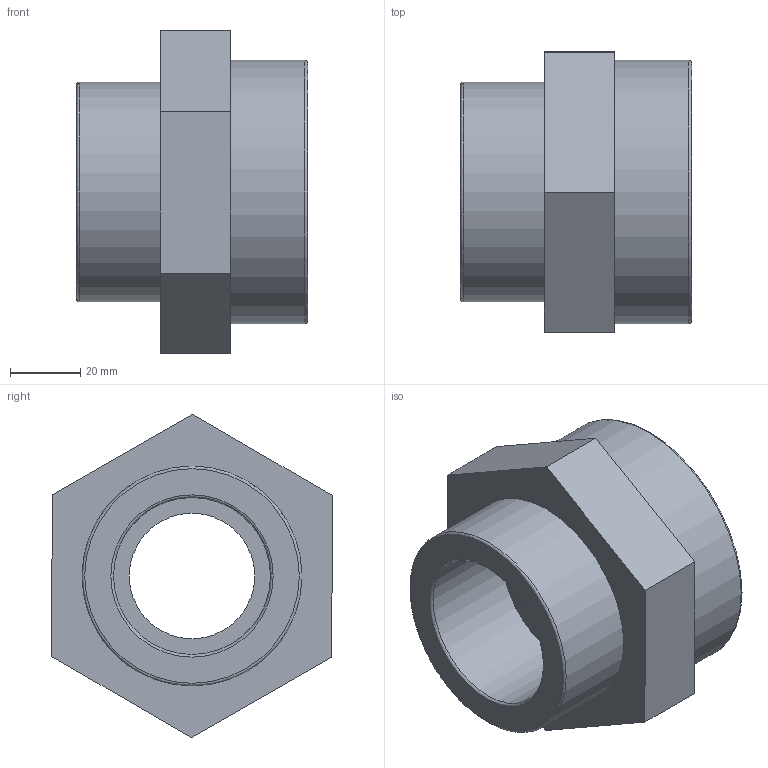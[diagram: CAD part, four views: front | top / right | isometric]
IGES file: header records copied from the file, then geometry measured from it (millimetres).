
Global section: file name: 050201025015.ipt; native system: Autodesk Inventor 2015; preprocessor: unknown; author: KIM; date: 20171207.164331; units: millimetre
Bounding box: 66 x 80.14 x 92.38 mm (x, y, z)
Volume: 159251 mm3; surface area: 34223.1 mm2
Topology: 1 solids, 1 shells, 21 faces, 55 edges, 40 vertices
Faces by surface type: plane 12, revolution 7, cylinder 2
Full cylindrical faces by diameter (mm): 62.783 x1, 75.184 x1
